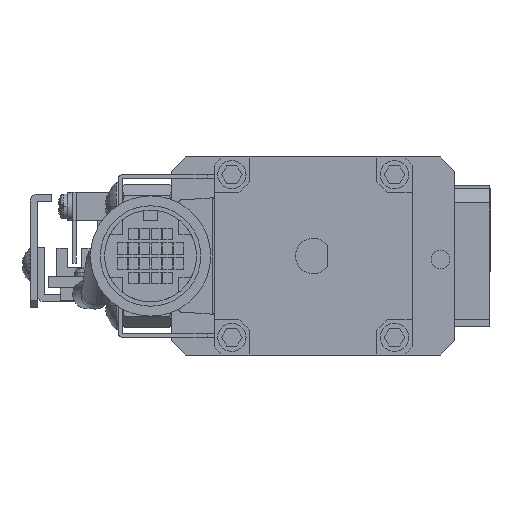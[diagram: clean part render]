
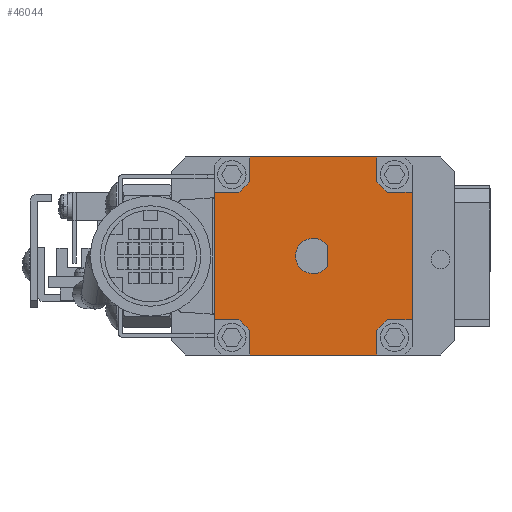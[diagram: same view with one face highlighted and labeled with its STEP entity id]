
A CAD part, left-side view. The second image highlights one B-rep face of the part: STEP entity #46044.
In plain terms, the highlighted planar face has unit normal (-1, 0, 0).
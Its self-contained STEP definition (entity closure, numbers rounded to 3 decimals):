
#184 = CIRCLE ( 'NONE', #15416, 19. ) ;
#604 = DIRECTION ( 'NONE',  ( 0., -1., 0. ) ) ;
#632 = CARTESIAN_POINT ( 'NONE',  ( -38.752, 11., 125.561 ) ) ;
#1107 = CARTESIAN_POINT ( 'NONE',  ( -38.752, 16., 120.561 ) ) ;
#1385 = CARTESIAN_POINT ( 'NONE',  ( -38.752, 23., 136.061 ) ) ;
#1611 = CARTESIAN_POINT ( 'NONE',  ( -38.752, 34., 124.061 ) ) ;
#1874 = ORIENTED_EDGE ( 'NONE', *, *, #60561, .F. ) ;
#1897 = EDGE_CURVE ( 'NONE', #50006, #49428, #30112, .T. ) ;
#2060 = CARTESIAN_POINT ( 'NONE',  ( -38.752, 16., 120.561 ) ) ;
#2085 = ORIENTED_EDGE ( 'NONE', *, *, #59704, .T. ) ;
#2223 = CARTESIAN_POINT ( 'NONE',  ( -38.752, 14.5, 125.561 ) ) ;
#4958 = VECTOR ( 'NONE', #47665, 1000. ) ;
#5764 = DIRECTION ( 'NONE',  ( 0., 1., 0. ) ) ;
#6015 = CARTESIAN_POINT ( 'NONE',  ( -38.752, 35.5, 125.561 ) ) ;
#6991 = AXIS2_PLACEMENT_3D ( 'NONE', #14557, #19608, #8642 ) ;
#7086 = DIRECTION ( 'NONE',  ( 0., 0., -1. ) ) ;
#7463 = DIRECTION ( 'NONE',  ( 0., -1., 0. ) ) ;
#8252 = VECTOR ( 'NONE', #23874, 1000. ) ;
#8642 = DIRECTION ( 'NONE',  ( 0., -0.667, 0.745 ) ) ;
#9205 = LINE ( 'NONE', #27372, #62876 ) ;
#9386 = CARTESIAN_POINT ( 'NONE',  ( -38.752, 48.164, 157.725 ) ) ;
#10562 = DIRECTION ( 'NONE',  ( 1., 0., 0. ) ) ;
#10713 = ORIENTED_EDGE ( 'NONE', *, *, #1897, .T. ) ;
#11047 = AXIS2_PLACEMENT_3D ( 'NONE', #34777, #59323, #33911 ) ;
#12397 = VERTEX_POINT ( 'NONE', #35618 ) ;
#12866 = DIRECTION ( 'NONE',  ( 0., 0., -1. ) ) ;
#13491 = EDGE_CURVE ( 'NONE', #22115, #51795, #31548, .T. ) ;
#13543 = VERTEX_POINT ( 'NONE', #42484 ) ;
#13570 = DIRECTION ( 'NONE',  ( 0., -0.745, -0.667 ) ) ;
#13708 = CARTESIAN_POINT ( 'NONE',  ( -38.752, 16., 148.561 ) ) ;
#13779 = DIRECTION ( 'NONE',  ( 1., 0., 0. ) ) ;
#14246 = VERTEX_POINT ( 'NONE', #1385 ) ;
#14557 = CARTESIAN_POINT ( 'NONE',  ( -38.752, 48.164, 111.397 ) ) ;
#15416 = AXIS2_PLACEMENT_3D ( 'NONE', #9386, #13779, #13570 ) ;
#15608 = DIRECTION ( 'NONE',  ( 0., 0.745, 0.667 ) ) ;
#16705 = VECTOR ( 'NONE', #7086, 1000. ) ;
#16821 = VECTOR ( 'NONE', #21998, 1000. ) ;
#17024 = VERTEX_POINT ( 'NONE', #632 ) ;
#17163 = CARTESIAN_POINT ( 'NONE',  ( -38.752, 25., 134.561 ) ) ;
#17990 = VERTEX_POINT ( 'NONE', #47884 ) ;
#18060 = VERTEX_POINT ( 'NONE', #13708 ) ;
#18168 = AXIS2_PLACEMENT_3D ( 'NONE', #17163, #48484, #23577 ) ;
#19034 = CARTESIAN_POINT ( 'NONE',  ( -38.752, 39., 125.561 ) ) ;
#19126 = CARTESIAN_POINT ( 'NONE',  ( -38.752, 35.5, 143.561 ) ) ;
#19521 = VECTOR ( 'NONE', #63866, 1000. ) ;
#19608 = DIRECTION ( 'NONE',  ( 1., 0., 0. ) ) ;
#19958 = ORIENTED_EDGE ( 'NONE', *, *, #52464, .F. ) ;
#20050 = ORIENTED_EDGE ( 'NONE', *, *, #13491, .T. ) ;
#20922 = CARTESIAN_POINT ( 'NONE',  ( -38.752, 34., 148.561 ) ) ;
#21673 = LINE ( 'NONE', #53880, #8252 ) ;
#21998 = DIRECTION ( 'NONE',  ( 0., 0., 1. ) ) ;
#22016 = VERTEX_POINT ( 'NONE', #63419 ) ;
#22115 = VERTEX_POINT ( 'NONE', #19034 ) ;
#22591 = LINE ( 'NONE', #37240, #56524 ) ;
#23057 = EDGE_CURVE ( 'NONE', #34894, #18060, #50890, .T. ) ;
#23138 = PLANE ( 'NONE',  #64817 ) ;
#23289 = CARTESIAN_POINT ( 'NONE',  ( -38.752, 39., 125.561 ) ) ;
#23577 = DIRECTION ( 'NONE',  ( 0., 1., 0. ) ) ;
#23874 = DIRECTION ( 'NONE',  ( 0., 0., 1. ) ) ;
#23881 = VERTEX_POINT ( 'NONE', #57167 ) ;
#24199 = DIRECTION ( 'NONE',  ( 0., -1., 0. ) ) ;
#25845 = LINE ( 'NONE', #58570, #19521 ) ;
#26465 = CIRCLE ( 'NONE', #11047, 19. ) ;
#27096 = AXIS2_PLACEMENT_3D ( 'NONE', #35632, #10562, #15608 ) ;
#27372 = CARTESIAN_POINT ( 'NONE',  ( -38.752, 11., 143.561 ) ) ;
#27558 = VECTOR ( 'NONE', #7463, 1000. ) ;
#28974 = VERTEX_POINT ( 'NONE', #2223 ) ;
#29969 = EDGE_CURVE ( 'NONE', #17990, #35381, #26465, .T. ) ;
#30112 = LINE ( 'NONE', #1611, #16705 ) ;
#31463 = DIRECTION ( 'NONE',  ( 0., 0., -1. ) ) ;
#31548 = LINE ( 'NONE', #23289, #27558 ) ;
#32154 = VECTOR ( 'NONE', #31463, 1000. ) ;
#32389 = VECTOR ( 'NONE', #54414, 1000. ) ;
#32660 = EDGE_CURVE ( 'NONE', #51795, #50006, #39583, .T. ) ;
#32703 = ORIENTED_EDGE ( 'NONE', *, *, #46176, .T. ) ;
#32995 = CARTESIAN_POINT ( 'NONE',  ( -38.752, 35.5, 143.561 ) ) ;
#33337 = LINE ( 'NONE', #2060, #4958 ) ;
#33911 = DIRECTION ( 'NONE',  ( 0., 0.667, -0.745 ) ) ;
#33964 = LINE ( 'NONE', #19126, #32389 ) ;
#34756 = CARTESIAN_POINT ( 'NONE',  ( -38.752, 14.5, 125.561 ) ) ;
#34777 = CARTESIAN_POINT ( 'NONE',  ( -38.752, 1.836, 157.725 ) ) ;
#34894 = VERTEX_POINT ( 'NONE', #42267 ) ;
#34964 = ORIENTED_EDGE ( 'NONE', *, *, #63931, .T. ) ;
#35381 = VERTEX_POINT ( 'NONE', #53635 ) ;
#35618 = CARTESIAN_POINT ( 'NONE',  ( -38.752, 34., 145.061 ) ) ;
#35632 = CARTESIAN_POINT ( 'NONE',  ( -38.752, 1.836, 111.397 ) ) ;
#35925 = EDGE_CURVE ( 'NONE', #22016, #14246, #46000, .T. ) ;
#36879 = LINE ( 'NONE', #20922, #32154 ) ;
#37240 = CARTESIAN_POINT ( 'NONE',  ( -38.752, 16., 120.561 ) ) ;
#37459 = VECTOR ( 'NONE', #604, 1000. ) ;
#37652 = DIRECTION ( 'NONE',  ( 0., 0., 1. ) ) ;
#37819 = ORIENTED_EDGE ( 'NONE', *, *, #61719, .F. ) ;
#38971 = DIRECTION ( 'NONE',  ( 0., 0., 1. ) ) ;
#39276 = CARTESIAN_POINT ( 'NONE',  ( -38.752, 34., 124.061 ) ) ;
#39479 = LINE ( 'NONE', #40117, #61619 ) ;
#39583 = CIRCLE ( 'NONE', #6991, 19. ) ;
#40071 = VERTEX_POINT ( 'NONE', #1107 ) ;
#40117 = CARTESIAN_POINT ( 'NONE',  ( -38.752, 11., 143.561 ) ) ;
#40657 = ORIENTED_EDGE ( 'NONE', *, *, #56469, .T. ) ;
#41954 = ORIENTED_EDGE ( 'NONE', *, *, #29969, .T. ) ;
#42267 = CARTESIAN_POINT ( 'NONE',  ( -38.752, 34., 148.561 ) ) ;
#42484 = CARTESIAN_POINT ( 'NONE',  ( -38.752, 11., 143.561 ) ) ;
#42895 = EDGE_CURVE ( 'NONE', #47863, #56588, #33964, .T. ) ;
#43194 = CARTESIAN_POINT ( 'NONE',  ( -38.752, 54.698, 104.863 ) ) ;
#44890 = CARTESIAN_POINT ( 'NONE',  ( -38.752, 34., 120.561 ) ) ;
#45605 = ORIENTED_EDGE ( 'NONE', *, *, #63266, .T. ) ;
#46000 = CIRCLE ( 'NONE', #18168, 2.5 ) ;
#46017 = EDGE_CURVE ( 'NONE', #40071, #23881, #22591, .T. ) ;
#46044 = ADVANCED_FACE ( 'NONE', ( #59683, #48575 ), #23138, .F. ) ;
#46176 = EDGE_CURVE ( 'NONE', #28974, #17024, #53355, .T. ) ;
#46723 = EDGE_LOOP ( 'NONE', ( #19958, #53629 ) ) ;
#47347 = CARTESIAN_POINT ( 'NONE',  ( -38.752, 23., 133.061 ) ) ;
#47570 = LINE ( 'NONE', #47347, #16821 ) ;
#47665 = DIRECTION ( 'NONE',  ( 0., 1., 0. ) ) ;
#47863 = VERTEX_POINT ( 'NONE', #32995 ) ;
#47884 = CARTESIAN_POINT ( 'NONE',  ( -38.752, 14.5, 143.561 ) ) ;
#48484 = DIRECTION ( 'NONE',  ( 1., 0., 0. ) ) ;
#48555 = ORIENTED_EDGE ( 'NONE', *, *, #49083, .T. ) ;
#48575 = FACE_BOUND ( 'NONE', #46723, .T. ) ;
#49015 = ORIENTED_EDGE ( 'NONE', *, *, #46017, .T. ) ;
#49083 = EDGE_CURVE ( 'NONE', #34894, #12397, #36879, .T. ) ;
#49428 = VERTEX_POINT ( 'NONE', #44890 ) ;
#50006 = VERTEX_POINT ( 'NONE', #39276 ) ;
#50736 = ORIENTED_EDGE ( 'NONE', *, *, #23057, .F. ) ;
#50890 = LINE ( 'NONE', #56162, #37459 ) ;
#50959 = ORIENTED_EDGE ( 'NONE', *, *, #62693, .F. ) ;
#51795 = VERTEX_POINT ( 'NONE', #6015 ) ;
#52103 = ORIENTED_EDGE ( 'NONE', *, *, #42895, .T. ) ;
#52464 = EDGE_CURVE ( 'NONE', #22016, #14246, #47570, .T. ) ;
#53355 = LINE ( 'NONE', #34756, #63633 ) ;
#53629 = ORIENTED_EDGE ( 'NONE', *, *, #35925, .T. ) ;
#53635 = CARTESIAN_POINT ( 'NONE',  ( -38.752, 16., 145.061 ) ) ;
#53880 = CARTESIAN_POINT ( 'NONE',  ( -38.752, 39., 125.561 ) ) ;
#54414 = DIRECTION ( 'NONE',  ( 0., 1., 0. ) ) ;
#54998 = CARTESIAN_POINT ( 'NONE',  ( -38.752, 39., 143.561 ) ) ;
#55597 = EDGE_LOOP ( 'NONE', ( #34964, #41954, #40657, #50736, #48555, #45605, #52103, #37819, #20050, #61954, #10713, #50959, #49015, #2085, #32703, #1874 ) ) ;
#56162 = CARTESIAN_POINT ( 'NONE',  ( -38.752, 34., 148.561 ) ) ;
#56469 = EDGE_CURVE ( 'NONE', #35381, #18060, #25845, .T. ) ;
#56524 = VECTOR ( 'NONE', #37652, 1000. ) ;
#56588 = VERTEX_POINT ( 'NONE', #54998 ) ;
#57167 = CARTESIAN_POINT ( 'NONE',  ( -38.752, 16., 124.061 ) ) ;
#58570 = CARTESIAN_POINT ( 'NONE',  ( -38.752, 16., 145.061 ) ) ;
#59323 = DIRECTION ( 'NONE',  ( 1., 0., 0. ) ) ;
#59683 = FACE_OUTER_BOUND ( 'NONE', #55597, .T. ) ;
#59704 = EDGE_CURVE ( 'NONE', #23881, #28974, #65042, .T. ) ;
#60561 = EDGE_CURVE ( 'NONE', #13543, #17024, #9205, .T. ) ;
#61619 = VECTOR ( 'NONE', #5764, 1000. ) ;
#61719 = EDGE_CURVE ( 'NONE', #22115, #56588, #21673, .T. ) ;
#61954 = ORIENTED_EDGE ( 'NONE', *, *, #32660, .T. ) ;
#62693 = EDGE_CURVE ( 'NONE', #40071, #49428, #33337, .T. ) ;
#62876 = VECTOR ( 'NONE', #12866, 1000. ) ;
#63266 = EDGE_CURVE ( 'NONE', #12397, #47863, #184, .T. ) ;
#63419 = CARTESIAN_POINT ( 'NONE',  ( -38.752, 23., 133.061 ) ) ;
#63633 = VECTOR ( 'NONE', #24199, 1000. ) ;
#63725 = DIRECTION ( 'NONE',  ( 1., 0., 0. ) ) ;
#63866 = DIRECTION ( 'NONE',  ( 0., 0., 1. ) ) ;
#63931 = EDGE_CURVE ( 'NONE', #13543, #17990, #39479, .T. ) ;
#64817 = AXIS2_PLACEMENT_3D ( 'NONE', #43194, #63725, #38971 ) ;
#65042 = CIRCLE ( 'NONE', #27096, 19. ) ;
